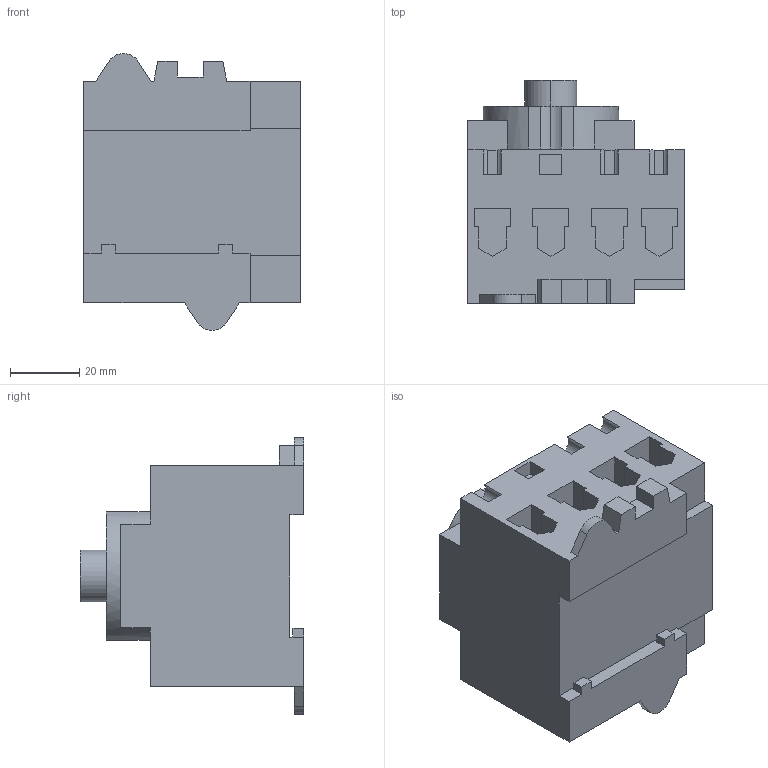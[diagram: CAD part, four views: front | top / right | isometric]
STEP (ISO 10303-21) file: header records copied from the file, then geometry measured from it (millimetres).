
FILE_DESCRIPTION (( 'STEP AP203' ), '1' );
FILE_NAME ('LTS63 VZV A4_Unterteil.STEP', '2012-12-06T06:18:56', ( 'edv' ), ( '' ), 'SwSTEP 2.0', 'SolidWorks 2013', '' );
FILE_SCHEMA (( 'CONFIG_CONTROL_DESIGN' ));
Length unit declared in the file: millimetre
Products named in the file (1): LTS63 VZV A4_Unterteil
Bounding box: 62.5 x 64.5 x 80 mm (x, y, z)
Volume: 165663 mm3; surface area: 30800.5 mm2
Topology: 1 solids, 1 shells, 208 faces, 563 edges, 370 vertices
Faces by surface type: plane 152, cylinder 40, cone 16
Entity records: 6584 total; most frequent: CARTESIAN_POINT 1142, ORIENTED_EDGE 1126, DIRECTION 1081, EDGE_CURVE 563, LINE 463, VECTOR 463, VERTEX_POINT 370, AXIS2_PLACEMENT_3D 309
